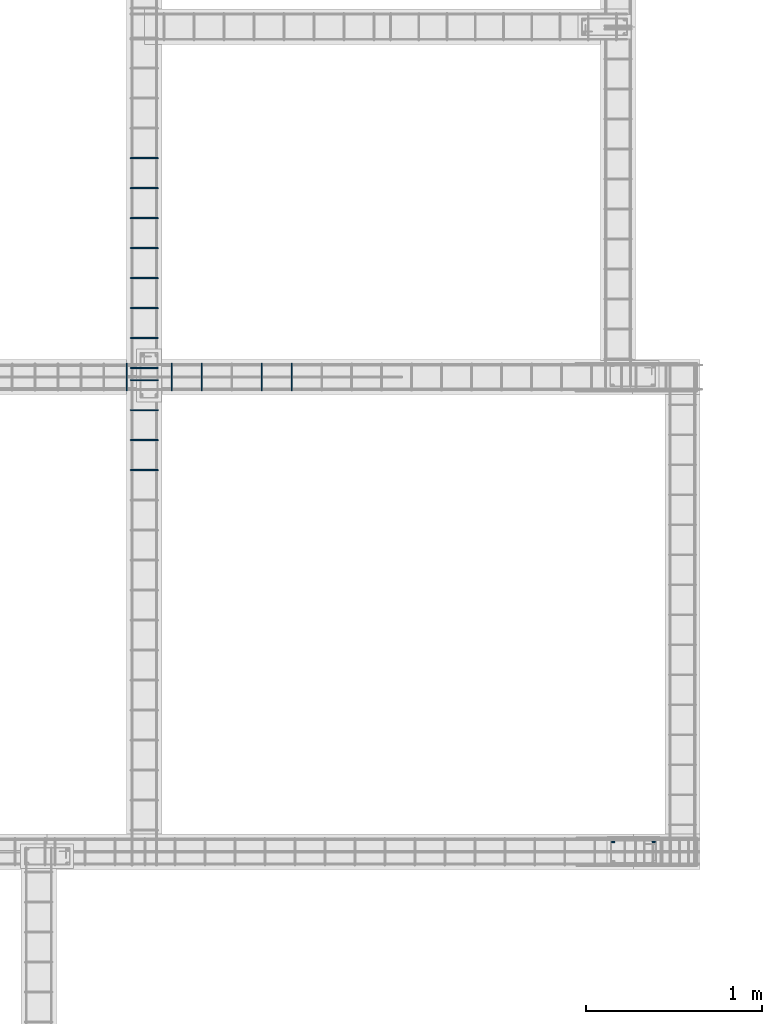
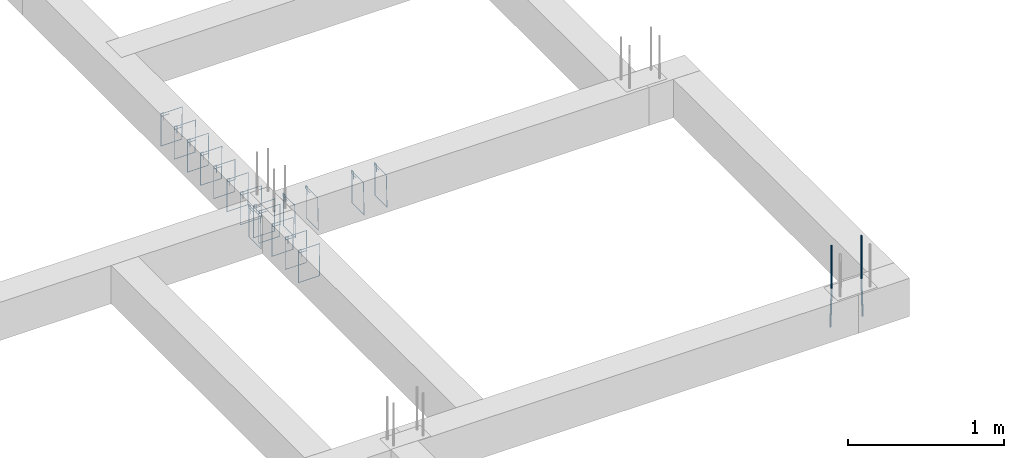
# One storey, part 119 of 150: 19 reinforcing bars.
"""IFC4 building model written with IfcOpenShell, lengths in centimetres."""

from ifc_helpers import new_model, entity, si_unit, derived_unit, frame, origin_with_axes, place, context, project, spatial, source, transform, mapped, element, save


model = new_model("IFC4")

# Units and contexts
model_context = context("Model", 3, precision=1e-05, world=origin_with_axes(), identifier="Body")
ifc_project = project(units=[si_unit("LENGTHUNIT", "METRE", prefix="CENTI"), si_unit("VOLUMEUNIT", "CUBIC_METRE"), si_unit("AREAUNIT", "SQUARE_METRE"), si_unit("POWERUNIT", "WATT"), si_unit("LUMINOUSFLUXUNIT", "LUMEN"), si_unit("ELECTRICCURRENTUNIT", "AMPERE"), si_unit("PRESSUREUNIT", "PASCAL", prefix="KILO"), si_unit("MASSUNIT", "GRAM", prefix="KILO"), si_unit("PLANEANGLEUNIT", "RADIAN"), derived_unit("VOLUMETRICFLOWRATEUNIT", [(si_unit("LENGTHUNIT", "METRE"), 3), (si_unit("TIMEUNIT", "SECOND"), -1)])], contexts=[model_context])

# Site, building, storey
site_placement = place(None, frame((-4000.0, 0.0, 0.0), z_axis=(0.0, 0.0, 1.0), x_axis=(1.0, 0.0, 0.0)))
site = spatial("IfcSite", under=ifc_project, at=site_placement, Name="PADRÃO")
building_placement = place(site_placement, frame((0.0, 0.0, -14.0)))
building = spatial("IfcBuilding", under=site, at=building_placement, Name="CRECHE PRÉ-ESCOLA TIPO 2")
placement = place(building_placement, origin_with_axes())
storey_placement = place(placement, frame((0.0, 0.0, 30.0), z_axis=(0.0, 0.0, 1.0), x_axis=(1.0, 0.0, 0.0)))
storey = spatial("IfcBuildingStorey", under=building, at=storey_placement, Name="VIGA BALDRAME", CompositionType="ELEMENT", Elevation=16.0)

# Reinforcing bars
shared_shape_1 = source(origin_with_axes(), model_context, "Body", "AdvancedSweptSolid", [
    entity("IfcSweptDiskSolid", entity("IfcCompositeCurve", [entity("IfcCompositeCurveSegment", "CONTINUOUS", True, entity("IfcPolyline", [entity("IfcCartesianPoint", [2.0, -6.0, 0.0]), entity("IfcCartesianPoint", [2.0, 0.0, 0.0])])), entity("IfcCompositeCurveSegment", "CONTINUOUS", True, entity("IfcPolyline", [entity("IfcCartesianPoint", [2.0, 0.0, 0.0]), entity("IfcCartesianPoint", [0.0, 0.0, 0.0])])), entity("IfcCompositeCurveSegment", "CONTINUOUS", True, entity("IfcPolyline", [entity("IfcCartesianPoint", [0.0, 0.0, 0.0]), entity("IfcCartesianPoint", [0.0, -25.5, 0.0])])), entity("IfcCompositeCurveSegment", "CONTINUOUS", True, entity("IfcPolyline", [entity("IfcCartesianPoint", [0.0, -25.5, 0.0]), entity("IfcCartesianPoint", [15.5, -25.5, 0.0])])), entity("IfcCompositeCurveSegment", "CONTINUOUS", True, entity("IfcPolyline", [entity("IfcCartesianPoint", [15.5, -25.5, 0.0]), entity("IfcCartesianPoint", [15.5, 0.0, 0.5])])), entity("IfcCompositeCurveSegment", "CONTINUOUS", True, entity("IfcPolyline", [entity("IfcCartesianPoint", [15.5, 0.0, 0.5]), entity("IfcCartesianPoint", [0.0, 0.0, 0.5])])), entity("IfcCompositeCurveSegment", "CONTINUOUS", True, entity("IfcPolyline", [entity("IfcCartesianPoint", [0.0, 0.0, 0.5]), entity("IfcCartesianPoint", [0.0, -2.0, 0.5])])), entity("IfcCompositeCurveSegment", "CONTINUOUS", True, entity("IfcPolyline", [entity("IfcCartesianPoint", [0.0, -2.0, 0.5]), entity("IfcCartesianPoint", [6.0, -2.0, 0.5])]))], False), 0.25),
])
reinforcing_bar_1_placement = place(storey_placement, frame((1106.36, 3476.75, -2.25), z_axis=(-1.0, 0.0, 0.0), x_axis=(0.0, -1.0, 0.0)))
element("IfcReinforcingBar", 1, at=reinforcing_bar_1_placement, inside=storey, Name="V110 - Estribo", BarLength=0.0, CrossSectionArea=1.9634954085e-05, NominalDiameter=0.5, PredefinedType="MAIN", context=model_context, shape_type="MappedRepresentation", body=[
    mapped(shared_shape_1, transform((0.0, 0.0, 0.0), scale=1.0)),
])
shared_shape_2 = source(origin_with_axes(), model_context, "Body", "AdvancedSweptSolid", [
    entity("IfcSweptDiskSolid", entity("IfcCompositeCurve", [entity("IfcCompositeCurveSegment", "CONTINUOUS", True, entity("IfcPolyline", [entity("IfcCartesianPoint", [2.0, -6.0, 0.0]), entity("IfcCartesianPoint", [2.0, 0.0, 0.0])])), entity("IfcCompositeCurveSegment", "CONTINUOUS", True, entity("IfcPolyline", [entity("IfcCartesianPoint", [2.0, 0.0, 0.0]), entity("IfcCartesianPoint", [0.0, 0.0, 0.0])])), entity("IfcCompositeCurveSegment", "CONTINUOUS", True, entity("IfcPolyline", [entity("IfcCartesianPoint", [0.0, 0.0, 0.0]), entity("IfcCartesianPoint", [0.0, -25.5, 0.0])])), entity("IfcCompositeCurveSegment", "CONTINUOUS", True, entity("IfcPolyline", [entity("IfcCartesianPoint", [0.0, -25.5, 0.0]), entity("IfcCartesianPoint", [15.5, -25.5, 0.0])])), entity("IfcCompositeCurveSegment", "CONTINUOUS", True, entity("IfcPolyline", [entity("IfcCartesianPoint", [15.5, -25.5, 0.0]), entity("IfcCartesianPoint", [15.5, 0.0, 0.5])])), entity("IfcCompositeCurveSegment", "CONTINUOUS", True, entity("IfcPolyline", [entity("IfcCartesianPoint", [15.5, 0.0, 0.5]), entity("IfcCartesianPoint", [0.0, 0.0, 0.5])])), entity("IfcCompositeCurveSegment", "CONTINUOUS", True, entity("IfcPolyline", [entity("IfcCartesianPoint", [0.0, 0.0, 0.5]), entity("IfcCartesianPoint", [0.0, -2.0, 0.5])])), entity("IfcCompositeCurveSegment", "CONTINUOUS", True, entity("IfcPolyline", [entity("IfcCartesianPoint", [0.0, -2.0, 0.5]), entity("IfcCartesianPoint", [6.0, -2.0, 0.5])]))], False), 0.25),
])
for number, where, z_axis, x_axis, name in (
    (2, (1199.78, 3476.75, -2.25), (-1.0, 0.0, 0.0), (0.0, -1.0, 0.0), "V110 - Estribo"),
    (3, (1182.78, 3476.75, -2.25), (-1.0, 0.0, 0.0), (0.0, -1.0, 0.0), "V110 - Estribo"),
    (4, (1148.78, 3476.75, -2.25), (-1.0, 0.0, 0.0), (0.0, -1.0, 0.0), "V110 - Estribo"),
    (5, (1131.78, 3476.75, -2.25), (-1.0, 0.0, 0.0), (0.0, -1.0, 0.0), "V110 - Estribo"),
):
    element("IfcReinforcingBar", number, at=place(storey_placement, frame(where, z_axis=z_axis, x_axis=x_axis)), inside=storey, Name=name, BarLength=0.0, CrossSectionArea=1.9634954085e-05, NominalDiameter=0.5, PredefinedType="MAIN", context=model_context, shape_type="MappedRepresentation", body=[
        mapped(shared_shape_2, transform((0.0, 0.0, 0.0), scale=1.0)),
    ])
shared_shape_3 = source(origin_with_axes(), model_context, "Body", "AdvancedSweptSolid", [
    entity("IfcSweptDiskSolid", entity("IfcCompositeCurve", [entity("IfcCompositeCurveSegment", "CONTINUOUS", True, entity("IfcPolyline", [entity("IfcCartesianPoint", [2.0, -6.0, 0.0]), entity("IfcCartesianPoint", [2.0, 0.0, 0.0])])), entity("IfcCompositeCurveSegment", "CONTINUOUS", True, entity("IfcPolyline", [entity("IfcCartesianPoint", [2.0, 0.0, 0.0]), entity("IfcCartesianPoint", [0.0, 0.0, 0.0])])), entity("IfcCompositeCurveSegment", "CONTINUOUS", True, entity("IfcPolyline", [entity("IfcCartesianPoint", [0.0, 0.0, 0.0]), entity("IfcCartesianPoint", [0.0, -25.5, 0.0])])), entity("IfcCompositeCurveSegment", "CONTINUOUS", True, entity("IfcPolyline", [entity("IfcCartesianPoint", [0.0, -25.5, 0.0]), entity("IfcCartesianPoint", [15.5, -25.5, 0.0])])), entity("IfcCompositeCurveSegment", "CONTINUOUS", True, entity("IfcPolyline", [entity("IfcCartesianPoint", [15.5, -25.5, 0.0]), entity("IfcCartesianPoint", [15.5, 0.0, 0.5])])), entity("IfcCompositeCurveSegment", "CONTINUOUS", True, entity("IfcPolyline", [entity("IfcCartesianPoint", [15.5, 0.0, 0.5]), entity("IfcCartesianPoint", [0.0, 0.0, 0.5])])), entity("IfcCompositeCurveSegment", "CONTINUOUS", True, entity("IfcPolyline", [entity("IfcCartesianPoint", [0.0, 0.0, 0.5]), entity("IfcCartesianPoint", [0.0, -2.0, 0.5])])), entity("IfcCompositeCurveSegment", "CONTINUOUS", True, entity("IfcPolyline", [entity("IfcCartesianPoint", [0.0, -2.0, 0.5]), entity("IfcCartesianPoint", [6.0, -2.0, 0.5])]))], False), 0.25),
])
for number, where, z_axis, x_axis, name in (
    (6, (1108.25, 3433.51, -2.25), (0.0, -1.0, 0.0), (1.0, 0.0, 0.0), "V185 - Estribo"),
    (7, (1108.25, 3416.51, -2.25), (0.0, -1.0, 0.0), (1.0, 0.0, 0.0), "V185 - Estribo"),
    (8, (1108.25, 3467.51, -2.25), (0.0, -1.0, 0.0), (1.0, 0.0, 0.0), "V185 - Estribo"),
    (9, (1108.25, 3450.51, -2.25), (0.0, -1.0, 0.0), (1.0, 0.0, 0.0), "V185 - Estribo"),
):
    element("IfcReinforcingBar", number, at=place(storey_placement, frame(where, z_axis=z_axis, x_axis=x_axis)), inside=storey, Name=name, BarLength=0.0, CrossSectionArea=1.9634954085e-05, NominalDiameter=0.5, PredefinedType="MAIN", context=model_context, shape_type="MappedRepresentation", body=[
        mapped(shared_shape_3, transform((0.0, 0.0, 0.0), scale=1.0)),
    ])
shared_shape_4 = source(origin_with_axes(), model_context, "Body", "AdvancedSweptSolid", [
    entity("IfcSweptDiskSolid", entity("IfcCompositeCurve", [entity("IfcCompositeCurveSegment", "CONTINUOUS", True, entity("IfcPolyline", [entity("IfcCartesianPoint", [2.0, -6.0, 0.0]), entity("IfcCartesianPoint", [2.0, 0.0, 0.0])])), entity("IfcCompositeCurveSegment", "CONTINUOUS", True, entity("IfcPolyline", [entity("IfcCartesianPoint", [2.0, 0.0, 0.0]), entity("IfcCartesianPoint", [0.0, 0.0, 0.0])])), entity("IfcCompositeCurveSegment", "CONTINUOUS", True, entity("IfcPolyline", [entity("IfcCartesianPoint", [0.0, 0.0, 0.0]), entity("IfcCartesianPoint", [0.0, -25.5, 0.0])])), entity("IfcCompositeCurveSegment", "CONTINUOUS", True, entity("IfcPolyline", [entity("IfcCartesianPoint", [0.0, -25.5, 0.0]), entity("IfcCartesianPoint", [15.5, -25.5, 0.0])])), entity("IfcCompositeCurveSegment", "CONTINUOUS", True, entity("IfcPolyline", [entity("IfcCartesianPoint", [15.5, -25.5, 0.0]), entity("IfcCartesianPoint", [15.5, 0.0, 0.5])])), entity("IfcCompositeCurveSegment", "CONTINUOUS", True, entity("IfcPolyline", [entity("IfcCartesianPoint", [15.5, 0.0, 0.5]), entity("IfcCartesianPoint", [0.0, 0.0, 0.5])])), entity("IfcCompositeCurveSegment", "CONTINUOUS", True, entity("IfcPolyline", [entity("IfcCartesianPoint", [0.0, 0.0, 0.5]), entity("IfcCartesianPoint", [0.0, -2.0, 0.5])])), entity("IfcCompositeCurveSegment", "CONTINUOUS", True, entity("IfcPolyline", [entity("IfcCartesianPoint", [0.0, -2.0, 0.5]), entity("IfcCartesianPoint", [6.0, -2.0, 0.5])]))], False), 0.25),
])
for number, where, z_axis, x_axis, name in (
    (10, (1108.25, 3525.39, -2.25), (0.0, -1.0, 0.0), (1.0, 0.0, 0.0), "V185 - Estribo"),
    (11, (1108.25, 3542.39, -2.25), (0.0, -1.0, 0.0), (1.0, 0.0, 0.0), "V185 - Estribo"),
    (12, (1108.25, 3559.39, -2.25), (0.0, -1.0, 0.0), (1.0, 0.0, 0.0), "V185 - Estribo"),
    (13, (1108.25, 3508.39, -2.25), (0.0, -1.0, 0.0), (1.0, 0.0, 0.0), "V185 - Estribo"),
    (14, (1108.25, 3576.39, -2.25), (0.0, -1.0, 0.0), (1.0, 0.0, 0.0), "V185 - Estribo"),
    (15, (1108.25, 3474.39, -2.25), (0.0, -1.0, 0.0), (1.0, 0.0, 0.0), "V185 - Estribo"),
    (16, (1108.25, 3491.39, -2.25), (0.0, -1.0, 0.0), (1.0, 0.0, 0.0), "V185 - Estribo"),
    (17, (1108.25, 3593.39, -2.25), (0.0, -1.0, 0.0), (1.0, 0.0, 0.0), "V185 - Estribo"),
):
    element("IfcReinforcingBar", number, at=place(storey_placement, frame(where, z_axis=z_axis, x_axis=x_axis)), inside=storey, Name=name, BarLength=0.0, CrossSectionArea=1.9634954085e-05, NominalDiameter=0.5, PredefinedType="MAIN", context=model_context, shape_type="MappedRepresentation", body=[
        mapped(shared_shape_4, transform((0.0, 0.0, 0.0), scale=1.0)),
    ])
reinforcing_bar_2_placement = place(storey_placement, frame((1381.75013877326, 3205.52, 33.3573001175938), z_axis=(0.0, 0.0, 1.0), x_axis=(1.0, 0.0, 0.0)))
element("IfcReinforcingBar", 18, at=reinforcing_bar_2_placement, inside=storey, Name="P51 - Longitudinal", BarLength=0.0, CrossSectionArea=7.853981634e-05, NominalDiameter=1.0, PredefinedType="MAIN", context=model_context, shape_type="AdvancedSweptSolid", body=[
    entity("IfcSweptDiskSolid", entity("IfcCompositeCurve", [entity("IfcCompositeCurveSegment", "CONTINUOUS", True, entity("IfcPolyline", [entity("IfcCartesianPoint", [-0.50013877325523, 0.0, -63.3573001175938]), entity("IfcCartesianPoint", [0.49986122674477, 0.0, -33.3573001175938])])), entity("IfcCompositeCurveSegment", "CONTINUOUS", True, entity("IfcPolyline", [entity("IfcCartesianPoint", [0.49986122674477, 0.0, -33.3573001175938]), entity("IfcCartesianPoint", [0.49986122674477, 0.0, 0.0])]))], False), 0.5),
])
reinforcing_bar_3_placement = place(storey_placement, frame((1404.74986122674, 3205.52, 33.3573001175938), z_axis=(0.0, 0.0, 1.0), x_axis=(1.0, 0.0, 0.0)))
element("IfcReinforcingBar", 19, at=reinforcing_bar_3_placement, inside=storey, Name="P51 - Longitudinal", BarLength=0.0, CrossSectionArea=7.853981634e-05, NominalDiameter=1.0, PredefinedType="MAIN", context=model_context, shape_type="AdvancedSweptSolid", body=[
    entity("IfcSweptDiskSolid", entity("IfcCompositeCurve", [entity("IfcCompositeCurveSegment", "CONTINUOUS", True, entity("IfcPolyline", [entity("IfcCartesianPoint", [0.50013877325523, 0.0, -63.3573001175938]), entity("IfcCartesianPoint", [-0.49986122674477, 0.0, -33.3573001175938])])), entity("IfcCompositeCurveSegment", "CONTINUOUS", True, entity("IfcPolyline", [entity("IfcCartesianPoint", [-0.49986122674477, 0.0, -33.3573001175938]), entity("IfcCartesianPoint", [-0.49986122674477, 0.0, 0.0])]))], False), 0.5),
])

save(model, "model.ifc")
